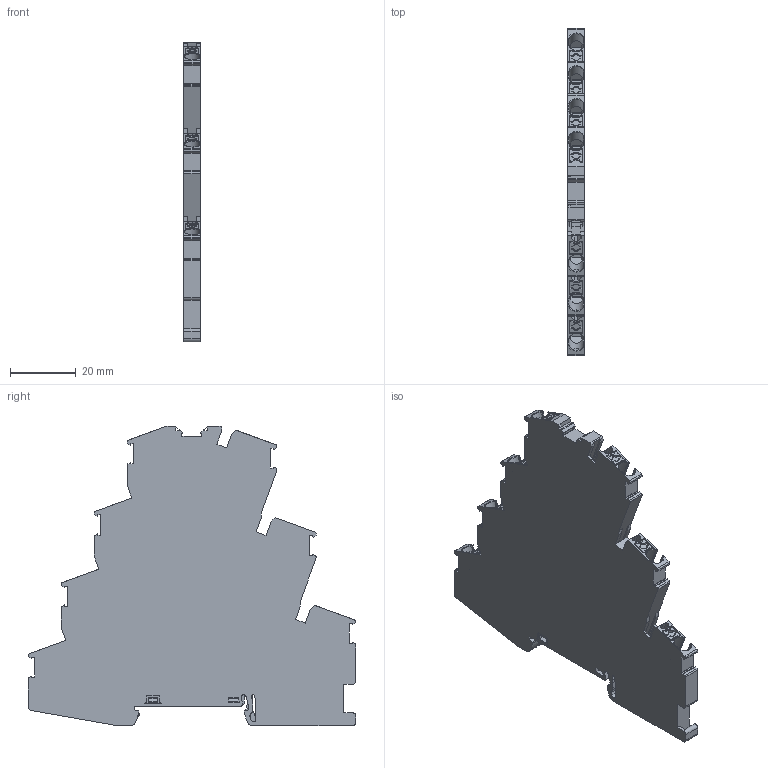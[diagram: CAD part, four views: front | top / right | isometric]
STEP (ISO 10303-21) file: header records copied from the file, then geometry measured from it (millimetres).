
FILE_DESCRIPTION((''),'2;1');
FILE_NAME('UPT-2_5-PE-3L_ASSY','2024-04-01T10:54:58',('Administrator'),(''),'CREO PARAMETRIC BY PTC INC, 2018050','CREO PARAMETRIC BY PTC INC, 2018050','');
FILE_SCHEMA(('CONFIG_CONTROL_DESIGN'));
Products named in the file (1): UPT-2_5-PE-3L_ASSY
Bounding box: 5.15 x 99.4 x 91.1 mm (x, y, z)
Volume: 28590.4 mm3; surface area: 19300.6 mm2
Topology: 1 solids, 4 shells, 1737 faces, 4904 edges, 3159 vertices
Faces by surface type: plane 1034, cylinder 481, cone 138, torus 42, bspline 28, extrusion 14
Entity records: 57516 total; most frequent: CARTESIAN_POINT 12881, ORIENTED_EDGE 9752, DIRECTION 8760, EDGE_CURVE 4876, VECTOR 3444, LINE 3430, VERTEX_POINT 3159, AXIS2_PLACEMENT_3D 2658
